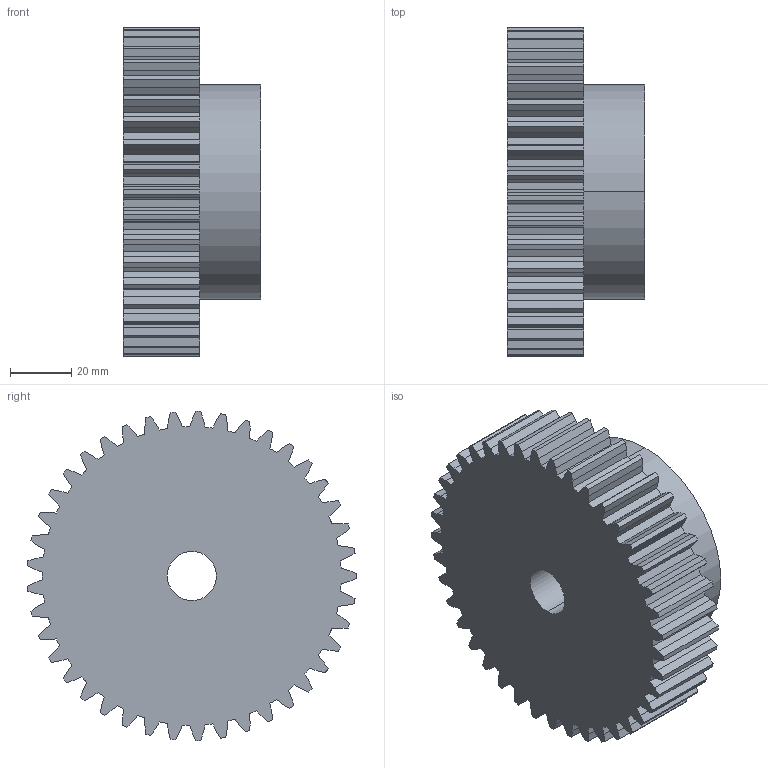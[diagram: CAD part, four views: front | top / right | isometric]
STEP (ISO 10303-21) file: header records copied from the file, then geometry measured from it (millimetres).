
FILE_DESCRIPTION (( 'STEP AP203' ), '1' );
FILE_NAME ('PM 29041.STEP', '2013-09-25T13:06:54', ( '' ), ( '' ), 'SwSTEP 2.0', 'SolidWorks 2010', '' );
FILE_SCHEMA (( 'CONFIG_CONTROL_DESIGN' ));
Length unit declared in the file: millimetre
Products named in the file (1): PM 29041
Bounding box: 45 x 107.4 x 107.47 mm (x, y, z)
Volume: 272220.3 mm3; surface area: 37781.9 mm2
Topology: 1 solids, 1 shells, 253 faces, 750 edges, 500 vertices
Faces by surface type: plane 167, cylinder 86
Entity records: 8701 total; most frequent: CARTESIAN_POINT 2218, ORIENTED_EDGE 1500, DIRECTION 1118, EDGE_CURVE 750, VERTEX_POINT 500, VECTOR 414, LINE 414, AXIS2_PLACEMENT_3D 352
